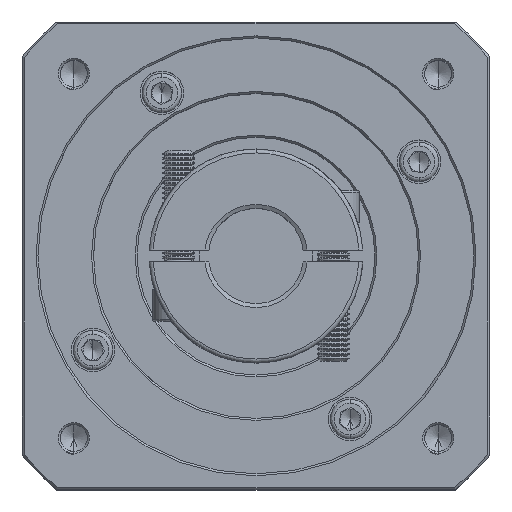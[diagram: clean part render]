
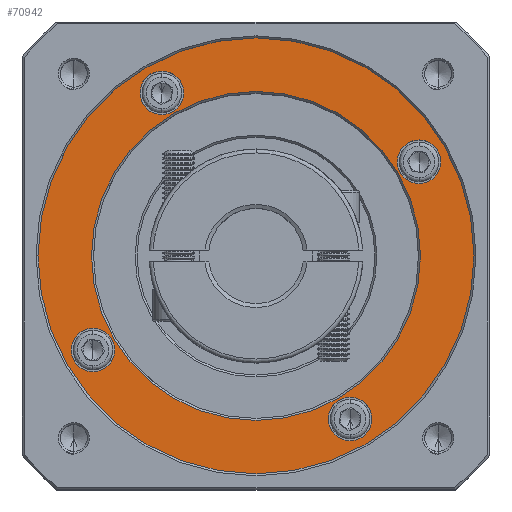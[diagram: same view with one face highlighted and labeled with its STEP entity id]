
A CAD part, top view. The second image highlights one B-rep face of the part: STEP entity #70942.
In plain terms, the highlighted planar face has unit normal (0, 0, 1).
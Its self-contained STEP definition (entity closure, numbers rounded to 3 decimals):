
#2069 = CARTESIAN_POINT ( 'NONE',  ( 72.579, 11.299, -18.676 ) ) ;
#2273 = DIRECTION ( 'NONE',  ( 0., 1., 0. ) ) ;
#2646 = AXIS2_PLACEMENT_3D ( 'NONE', #97061, #20795, #106454 ) ;
#3188 = DIRECTION ( 'NONE',  ( 0., 0., -1. ) ) ;
#4130 = CARTESIAN_POINT ( 'NONE',  ( 72.579, 5.799, -18.676 ) ) ;
#7023 = CIRCLE ( 'NONE', #2646, 55. ) ;
#8212 = ORIENTED_EDGE ( 'NONE', *, *, #98679, .T. ) ;
#8423 = CIRCLE ( 'NONE', #131838, 41.5 ) ;
#9676 = DIRECTION ( 'NONE',  ( 0., 1., 0. ) ) ;
#10894 = EDGE_CURVE ( 'NONE', #120142, #61287, #122632, .T. ) ;
#11021 = CARTESIAN_POINT ( 'NONE',  ( 89.965, 81.685, -18.676 ) ) ;
#11851 = CIRCLE ( 'NONE', #116260, 5.5 ) ;
#14882 = DIRECTION ( 'NONE',  ( 0., 1., 0. ) ) ;
#15366 = CARTESIAN_POINT ( 'NONE',  ( 48.829, 107.435, -18.676 ) ) ;
#15396 = CARTESIAN_POINT ( 'NONE',  ( 48.829, -2.565, -18.676 ) ) ;
#17447 = DIRECTION ( 'NONE',  ( 0., 1., 0. ) ) ;
#20795 = DIRECTION ( 'NONE',  ( 0., 0., 1. ) ) ;
#21724 = EDGE_LOOP ( 'NONE', ( #27686, #23498 ) ) ;
#22152 = CARTESIAN_POINT ( 'NONE',  ( 25.079, 93.571, -18.676 ) ) ;
#23440 = CIRCLE ( 'NONE', #106609, 5.5 ) ;
#23498 = ORIENTED_EDGE ( 'NONE', *, *, #102670, .T. ) ;
#23601 = DIRECTION ( 'NONE',  ( 0., 1., 0. ) ) ;
#23707 = ORIENTED_EDGE ( 'NONE', *, *, #29231, .T. ) ;
#23723 = AXIS2_PLACEMENT_3D ( 'NONE', #113300, #36670, #124169 ) ;
#25275 = CARTESIAN_POINT ( 'NONE',  ( 48.829, 52.435, -18.676 ) ) ;
#25715 = DIRECTION ( 'NONE',  ( 1., 0., 0. ) ) ;
#25765 = CARTESIAN_POINT ( 'NONE',  ( 90.329, 52.435, -18.676 ) ) ;
#27074 = CARTESIAN_POINT ( 'NONE',  ( 89.965, 76.185, -18.676 ) ) ;
#27283 = FACE_OUTER_BOUND ( 'NONE', #83366, .T. ) ;
#27686 = ORIENTED_EDGE ( 'NONE', *, *, #36593, .T. ) ;
#28832 = DIRECTION ( 'NONE',  ( 0., 0., 1. ) ) ;
#28845 = ORIENTED_EDGE ( 'NONE', *, *, #68166, .T. ) ;
#29231 = EDGE_CURVE ( 'NONE', #91066, #89494, #107890, .T. ) ;
#30572 = DIRECTION ( 'NONE',  ( 0., 1., 0. ) ) ;
#34297 = CARTESIAN_POINT ( 'NONE',  ( 89.965, 70.685, -18.676 ) ) ;
#36593 = EDGE_CURVE ( 'NONE', #64892, #114044, #11851, .T. ) ;
#36670 = DIRECTION ( 'NONE',  ( 0., 0., -1. ) ) ;
#38258 = AXIS2_PLACEMENT_3D ( 'NONE', #91810, #48444, #81427 ) ;
#40435 = CARTESIAN_POINT ( 'NONE',  ( 7.329, 52.435, -18.676 ) ) ;
#40767 = FACE_BOUND ( 'NONE', #104388, .T. ) ;
#41999 = EDGE_LOOP ( 'NONE', ( #28845, #45737 ) ) ;
#43770 = DIRECTION ( 'NONE',  ( 0., 1., 0. ) ) ;
#45062 = DIRECTION ( 'NONE',  ( 0., 0., -1. ) ) ;
#45626 = EDGE_CURVE ( 'NONE', #119028, #119290, #104501, .T. ) ;
#45737 = ORIENTED_EDGE ( 'NONE', *, *, #45626, .T. ) ;
#45746 = FACE_BOUND ( 'NONE', #57776, .T. ) ;
#48444 = DIRECTION ( 'NONE',  ( 0., 0., 1. ) ) ;
#48580 = VERTEX_POINT ( 'NONE', #11021 ) ;
#48928 = DIRECTION ( 'NONE',  ( 0., 0., -1. ) ) ;
#49912 = CARTESIAN_POINT ( 'NONE',  ( 48.829, 52.435, -18.676 ) ) ;
#54442 = ORIENTED_EDGE ( 'NONE', *, *, #107730, .T. ) ;
#55727 = EDGE_CURVE ( 'NONE', #48580, #59358, #86134, .T. ) ;
#55989 = ORIENTED_EDGE ( 'NONE', *, *, #10894, .T. ) ;
#56261 = VERTEX_POINT ( 'NONE', #15396 ) ;
#56293 = ORIENTED_EDGE ( 'NONE', *, *, #61582, .T. ) ;
#57269 = DIRECTION ( 'NONE',  ( 1., 0., 0. ) ) ;
#57776 = EDGE_LOOP ( 'NONE', ( #55989, #56293 ) ) ;
#58837 = CARTESIAN_POINT ( 'NONE',  ( 7.692, 28.685, -18.676 ) ) ;
#59251 = FACE_BOUND ( 'NONE', #41999, .T. ) ;
#59358 = VERTEX_POINT ( 'NONE', #34297 ) ;
#61287 = VERTEX_POINT ( 'NONE', #4130 ) ;
#61582 = EDGE_CURVE ( 'NONE', #61287, #120142, #23440, .T. ) ;
#61641 = AXIS2_PLACEMENT_3D ( 'NONE', #89676, #3188, #2273 ) ;
#62154 = CARTESIAN_POINT ( 'NONE',  ( 25.079, 99.071, -18.676 ) ) ;
#62597 = FACE_BOUND ( 'NONE', #21724, .T. ) ;
#64892 = VERTEX_POINT ( 'NONE', #91805 ) ;
#68166 = EDGE_CURVE ( 'NONE', #119290, #119028, #8423, .T. ) ;
#69415 = DIRECTION ( 'NONE',  ( 0., 0., -1. ) ) ;
#70942 = ADVANCED_FACE ( 'NONE', ( #27283, #59251, #40767, #104822, #62597, #45746 ), #112910, .T. ) ;
#75232 = DIRECTION ( 'NONE',  ( 0., 0., -1. ) ) ;
#76206 = AXIS2_PLACEMENT_3D ( 'NONE', #22152, #108216, #43770 ) ;
#78430 = CIRCLE ( 'NONE', #61641, 5.5 ) ;
#79137 = CIRCLE ( 'NONE', #118235, 5.5 ) ;
#81427 = DIRECTION ( 'NONE',  ( 0., 1., 0. ) ) ;
#81815 = ORIENTED_EDGE ( 'NONE', *, *, #55727, .T. ) ;
#83366 = EDGE_LOOP ( 'NONE', ( #99177, #8212 ) ) ;
#86134 = CIRCLE ( 'NONE', #23723, 5.5 ) ;
#89494 = VERTEX_POINT ( 'NONE', #135816 ) ;
#89676 = CARTESIAN_POINT ( 'NONE',  ( 7.692, 28.685, -18.676 ) ) ;
#90198 = DIRECTION ( 'NONE',  ( 0., 0., -1. ) ) ;
#91066 = VERTEX_POINT ( 'NONE', #62154 ) ;
#91805 = CARTESIAN_POINT ( 'NONE',  ( 7.692, 34.185, -18.676 ) ) ;
#91810 = CARTESIAN_POINT ( 'NONE',  ( 48.829, 52.435, -18.676 ) ) ;
#92545 = EDGE_CURVE ( 'NONE', #130074, #56261, #131673, .T. ) ;
#94539 = AXIS2_PLACEMENT_3D ( 'NONE', #2069, #119562, #23601 ) ;
#95044 = CARTESIAN_POINT ( 'NONE',  ( 25.079, 93.571, -18.676 ) ) ;
#96057 = CARTESIAN_POINT ( 'NONE',  ( 7.692, 23.185, -18.676 ) ) ;
#96124 = CARTESIAN_POINT ( 'NONE',  ( 72.579, 16.799, -18.676 ) ) ;
#96916 = EDGE_LOOP ( 'NONE', ( #81815, #54442 ) ) ;
#97061 = CARTESIAN_POINT ( 'NONE',  ( 48.829, 52.435, -18.676 ) ) ;
#98679 = EDGE_CURVE ( 'NONE', #56261, #130074, #7023, .T. ) ;
#99177 = ORIENTED_EDGE ( 'NONE', *, *, #92545, .T. ) ;
#102670 = EDGE_CURVE ( 'NONE', #114044, #64892, #78430, .T. ) ;
#104388 = EDGE_LOOP ( 'NONE', ( #23707, #106782 ) ) ;
#104501 = CIRCLE ( 'NONE', #125767, 41.5 ) ;
#104822 = FACE_BOUND ( 'NONE', #96916, .T. ) ;
#106454 = DIRECTION ( 'NONE',  ( 0., 1., 0. ) ) ;
#106609 = AXIS2_PLACEMENT_3D ( 'NONE', #118225, #118685, #9676 ) ;
#106782 = ORIENTED_EDGE ( 'NONE', *, *, #127098, .T. ) ;
#107730 = EDGE_CURVE ( 'NONE', #59358, #48580, #107996, .T. ) ;
#107890 = CIRCLE ( 'NONE', #76206, 5.5 ) ;
#107996 = CIRCLE ( 'NONE', #111119, 5.5 ) ;
#108216 = DIRECTION ( 'NONE',  ( 0., 0., -1. ) ) ;
#111119 = AXIS2_PLACEMENT_3D ( 'NONE', #27074, #69415, #14882 ) ;
#112910 = PLANE ( 'NONE',  #38258 ) ;
#113000 = DIRECTION ( 'NONE',  ( 0., 1., 0. ) ) ;
#113300 = CARTESIAN_POINT ( 'NONE',  ( 89.965, 76.185, -18.676 ) ) ;
#113344 = AXIS2_PLACEMENT_3D ( 'NONE', #49912, #28832, #113000 ) ;
#114044 = VERTEX_POINT ( 'NONE', #96057 ) ;
#116260 = AXIS2_PLACEMENT_3D ( 'NONE', #58837, #48928, #17447 ) ;
#118225 = CARTESIAN_POINT ( 'NONE',  ( 72.579, 11.299, -18.676 ) ) ;
#118235 = AXIS2_PLACEMENT_3D ( 'NONE', #95044, #75232, #30572 ) ;
#118685 = DIRECTION ( 'NONE',  ( 0., 0., -1. ) ) ;
#119028 = VERTEX_POINT ( 'NONE', #40435 ) ;
#119290 = VERTEX_POINT ( 'NONE', #25765 ) ;
#119562 = DIRECTION ( 'NONE',  ( 0., 0., -1. ) ) ;
#120142 = VERTEX_POINT ( 'NONE', #96124 ) ;
#122632 = CIRCLE ( 'NONE', #94539, 5.5 ) ;
#124169 = DIRECTION ( 'NONE',  ( 0., 1., 0. ) ) ;
#125767 = AXIS2_PLACEMENT_3D ( 'NONE', #132979, #45062, #57269 ) ;
#127098 = EDGE_CURVE ( 'NONE', #89494, #91066, #79137, .T. ) ;
#130074 = VERTEX_POINT ( 'NONE', #15366 ) ;
#131673 = CIRCLE ( 'NONE', #113344, 55. ) ;
#131838 = AXIS2_PLACEMENT_3D ( 'NONE', #25275, #90198, #25715 ) ;
#132979 = CARTESIAN_POINT ( 'NONE',  ( 48.829, 52.435, -18.676 ) ) ;
#135816 = CARTESIAN_POINT ( 'NONE',  ( 25.079, 88.071, -18.676 ) ) ;
